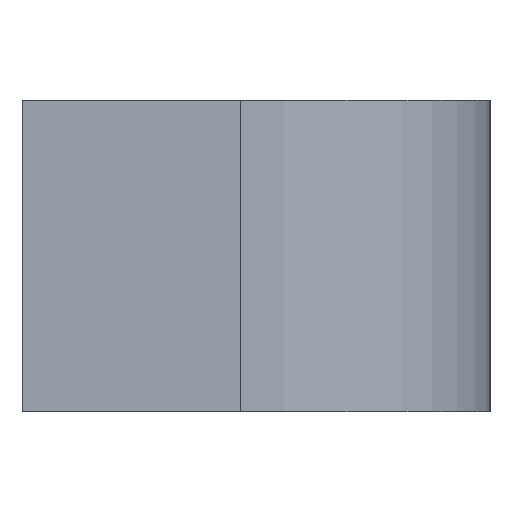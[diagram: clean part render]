
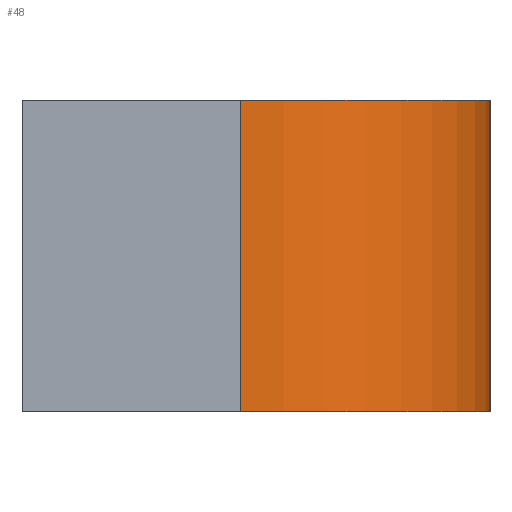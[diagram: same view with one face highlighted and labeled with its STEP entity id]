
A CAD part, left-side view. The second image highlights one B-rep face of the part: STEP entity #48.
In plain terms, the highlighted cylindrical face has radius 16 mm (diameter 32 mm), a partial arc.
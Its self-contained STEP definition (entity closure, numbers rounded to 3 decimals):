
#48 = ADVANCED_FACE( '', ( #104 ), #105, .T. );
#104 = FACE_OUTER_BOUND( '', #169, .T. );
#105 = CYLINDRICAL_SURFACE( '', #170, 16. );
#169 = EDGE_LOOP( '', ( #243, #244, #245, #246 ) );
#170 = AXIS2_PLACEMENT_3D( '', #247, #248, #249 );
#243 = ORIENTED_EDGE( '', *, *, #384, .T. );
#244 = ORIENTED_EDGE( '', *, *, #385, .F. );
#245 = ORIENTED_EDGE( '', *, *, #386, .F. );
#246 = ORIENTED_EDGE( '', *, *, #387, .T. );
#247 = CARTESIAN_POINT( '', ( 12., -14., 10. ) );
#248 = DIRECTION( '', ( 0., 0., 1. ) );
#249 = DIRECTION( '', ( -1., 0., 0. ) );
#384 = EDGE_CURVE( '', #450, #451, #452, .T. );
#385 = EDGE_CURVE( '', #453, #451, #454, .T. );
#386 = EDGE_CURVE( '', #455, #453, #456, .T. );
#387 = EDGE_CURVE( '', #455, #450, #457, .T. );
#450 = VERTEX_POINT( '', #542 );
#451 = VERTEX_POINT( '', #543 );
#452 = CIRCLE( '', #544, 16. );
#453 = VERTEX_POINT( '', #545 );
#454 = LINE( '', #546, #547 );
#455 = VERTEX_POINT( '', #548 );
#456 = CIRCLE( '', #549, 16. );
#457 = LINE( '', #550, #551 );
#542 = CARTESIAN_POINT( '', ( -4., -14., -10. ) );
#543 = CARTESIAN_POINT( '', ( 12., -30., -10. ) );
#544 = AXIS2_PLACEMENT_3D( '', #646, #647, #648 );
#545 = CARTESIAN_POINT( '', ( 12., -30., 10. ) );
#546 = CARTESIAN_POINT( '', ( 12., -30., 10. ) );
#547 = VECTOR( '', #649, 1000. );
#548 = CARTESIAN_POINT( '', ( -4., -14., 10. ) );
#549 = AXIS2_PLACEMENT_3D( '', #650, #651, #652 );
#550 = CARTESIAN_POINT( '', ( -4., -14., 10. ) );
#551 = VECTOR( '', #653, 1000. );
#646 = CARTESIAN_POINT( '', ( 12., -14., -10. ) );
#647 = DIRECTION( '', ( 0., 0., 1. ) );
#648 = DIRECTION( '', ( 1., 0., 0. ) );
#649 = DIRECTION( '', ( 0., 0., -1. ) );
#650 = CARTESIAN_POINT( '', ( 12., -14., 10. ) );
#651 = DIRECTION( '', ( 0., 0., 1. ) );
#652 = DIRECTION( '', ( 1., 0., 0. ) );
#653 = DIRECTION( '', ( 0., 0., -1. ) );
